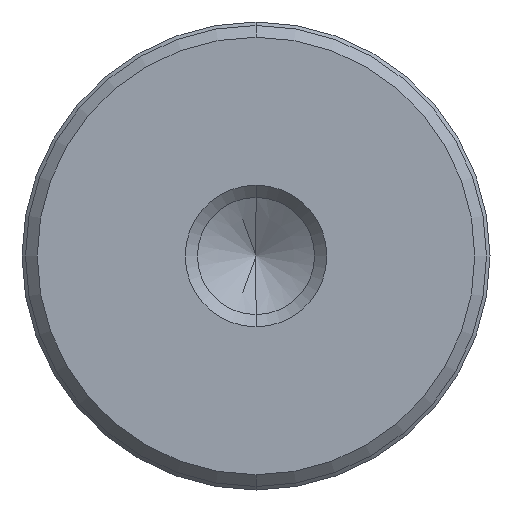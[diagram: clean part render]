
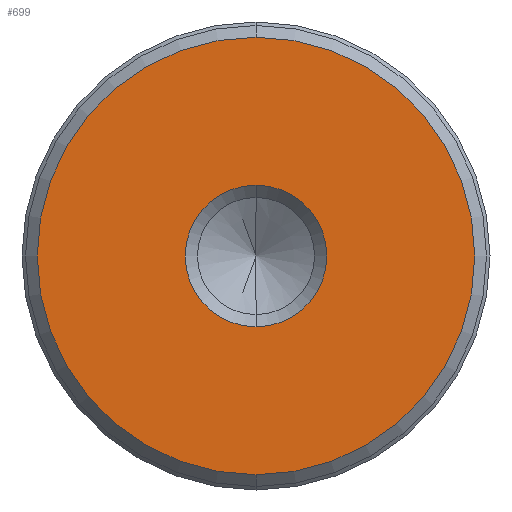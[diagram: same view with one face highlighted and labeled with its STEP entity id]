
A CAD part, front view. The second image highlights one B-rep face of the part: STEP entity #699.
In plain terms, the highlighted planar face has unit normal (0, -1, 0).
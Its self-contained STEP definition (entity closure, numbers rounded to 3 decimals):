
#14 = CARTESIAN_POINT ( 'NONE',  ( 0., -14., 0. ) ) ;
#56 = CIRCLE ( 'NONE', #1186, 3.025 ) ;
#126 = VERTEX_POINT ( 'NONE', #868 ) ;
#268 = DIRECTION ( 'NONE',  ( 0., 0., 1. ) ) ;
#521 = ORIENTED_EDGE ( 'NONE', *, *, #2277, .F. ) ;
#679 = VERTEX_POINT ( 'NONE', #1113 ) ;
#699 = ADVANCED_FACE ( 'NONE', ( #1055, #1211 ), #1124, .F. ) ;
#780 = CIRCLE ( 'NONE', #1677, 9.35 ) ;
#819 = DIRECTION ( 'NONE',  ( 0., 1., 0. ) ) ;
#868 = CARTESIAN_POINT ( 'NONE',  ( 0., -14., -3.025 ) ) ;
#1055 = FACE_BOUND ( 'NONE', #1907, .T. ) ;
#1113 = CARTESIAN_POINT ( 'NONE',  ( 0., -14., -9.35 ) ) ;
#1124 = PLANE ( 'NONE',  #1503 ) ;
#1126 = DIRECTION ( 'NONE',  ( 0., -1., 0. ) ) ;
#1186 = AXIS2_PLACEMENT_3D ( 'NONE', #2167, #1126, #1766 ) ;
#1211 = FACE_OUTER_BOUND ( 'NONE', #1563, .T. ) ;
#1265 = CARTESIAN_POINT ( 'NONE',  ( 0., -14., 3.025 ) ) ;
#1319 = CARTESIAN_POINT ( 'NONE',  ( 0., -14., 9.35 ) ) ;
#1351 = ORIENTED_EDGE ( 'NONE', *, *, #2950, .F. ) ;
#1370 = DIRECTION ( 'NONE',  ( 0., 0., 1. ) ) ;
#1482 = CARTESIAN_POINT ( 'NONE',  ( 0., -14., 0. ) ) ;
#1503 = AXIS2_PLACEMENT_3D ( 'NONE', #2095, #2841, #1370 ) ;
#1563 = EDGE_LOOP ( 'NONE', ( #1351, #521 ) ) ;
#1615 = ORIENTED_EDGE ( 'NONE', *, *, #2881, .F. ) ;
#1677 = AXIS2_PLACEMENT_3D ( 'NONE', #1482, #819, #2208 ) ;
#1725 = DIRECTION ( 'NONE',  ( 0., 1., 0. ) ) ;
#1766 = DIRECTION ( 'NONE',  ( 0., 0., -1. ) ) ;
#1784 = CIRCLE ( 'NONE', #1850, 3.025 ) ;
#1829 = CIRCLE ( 'NONE', #1962, 9.35 ) ;
#1850 = AXIS2_PLACEMENT_3D ( 'NONE', #3111, #3155, #2997 ) ;
#1907 = EDGE_LOOP ( 'NONE', ( #1615, #2564 ) ) ;
#1962 = AXIS2_PLACEMENT_3D ( 'NONE', #14, #1725, #268 ) ;
#2095 = CARTESIAN_POINT ( 'NONE',  ( 0., -14., 0. ) ) ;
#2167 = CARTESIAN_POINT ( 'NONE',  ( 0., -14., 0. ) ) ;
#2208 = DIRECTION ( 'NONE',  ( 0., 0., 1. ) ) ;
#2277 = EDGE_CURVE ( 'NONE', #679, #2549, #1829, .T. ) ;
#2395 = VERTEX_POINT ( 'NONE', #1265 ) ;
#2549 = VERTEX_POINT ( 'NONE', #1319 ) ;
#2564 = ORIENTED_EDGE ( 'NONE', *, *, #2968, .F. ) ;
#2841 = DIRECTION ( 'NONE',  ( 0., 1., 0. ) ) ;
#2881 = EDGE_CURVE ( 'NONE', #126, #2395, #56, .T. ) ;
#2950 = EDGE_CURVE ( 'NONE', #2549, #679, #780, .T. ) ;
#2968 = EDGE_CURVE ( 'NONE', #2395, #126, #1784, .T. ) ;
#2997 = DIRECTION ( 'NONE',  ( 0., 0., -1. ) ) ;
#3111 = CARTESIAN_POINT ( 'NONE',  ( 0., -14., 0. ) ) ;
#3155 = DIRECTION ( 'NONE',  ( 0., -1., 0. ) ) ;
